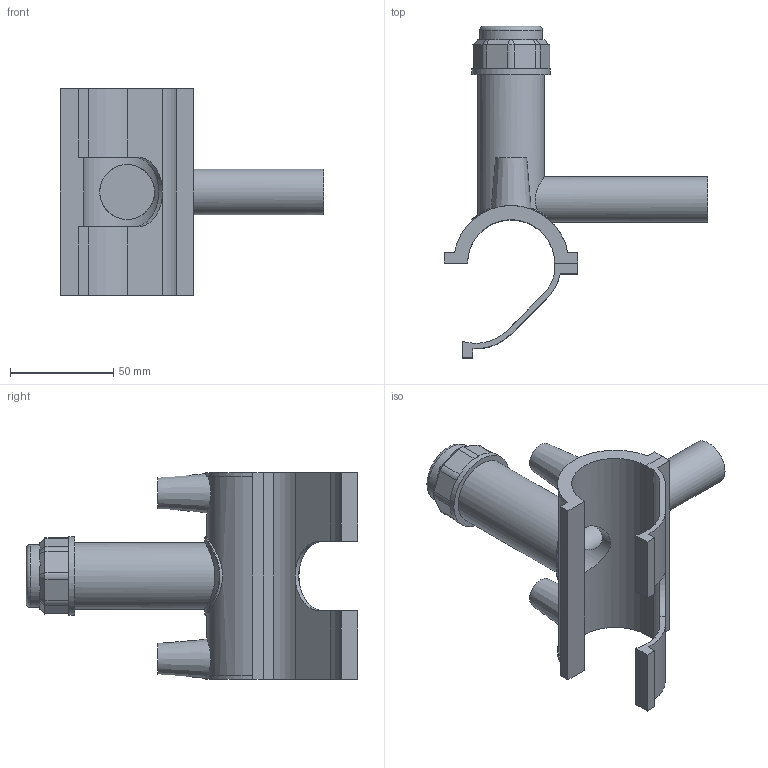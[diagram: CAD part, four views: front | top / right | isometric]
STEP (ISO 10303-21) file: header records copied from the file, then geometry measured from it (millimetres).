
FILE_DESCRIPTION(/* description */ ('PLASSON TAPPING SADDLE 1 1/4''''IPS x 3/4''''CTS'),/* implementation_level */ '2;1');
FILE_NAME(/* name */ 'C:\Dropbox\KIMPROJECTS-Inventor 2019\99-16-3568-Processing Inch\ASTM ElectroFusion 2021\5963B\5963BU03013007.ipt.stp',/* time_stamp */ '2021-08-30T09:55:55+03:00',/* author */ ('KIM'),/* organization */ (''),/* preprocessor_version */ 'ST-DEVELOPER v17.2',/* originating_system */ 'Autodesk Inventor 2019',/* authorisation */ '');
FILE_SCHEMA (('AUTOMOTIVE_DESIGN { 1 0 10303 214 3 1 1 }'));
Length unit declared in the file: millimetre
Products named in the file (1): 5963BU03013007
Bounding box: 127.25 x 160.41 x 100.08 mm (x, y, z)
Volume: 128268.6 mm3; surface area: 62552 mm2
Topology: 2 solids, 2 shells, 108 faces, 282 edges, 186 vertices
Faces by surface type: plane 65, cylinder 31, cone 10, torus 1, bspline 1
Full cylindrical faces by diameter (mm): 4 x2, 10 x2, 17.68 x1, 22.1 x1, 26.523 x1, 30.312 x1, 32.206 x1, 37.89 x2
Entity records: 3826 total; most frequent: CARTESIAN_POINT 1092, ORIENTED_EDGE 564, DIRECTION 564, EDGE_CURVE 282, AXIS2_PLACEMENT_3D 204, VERTEX_POINT 186, LINE 156, VECTOR 156
